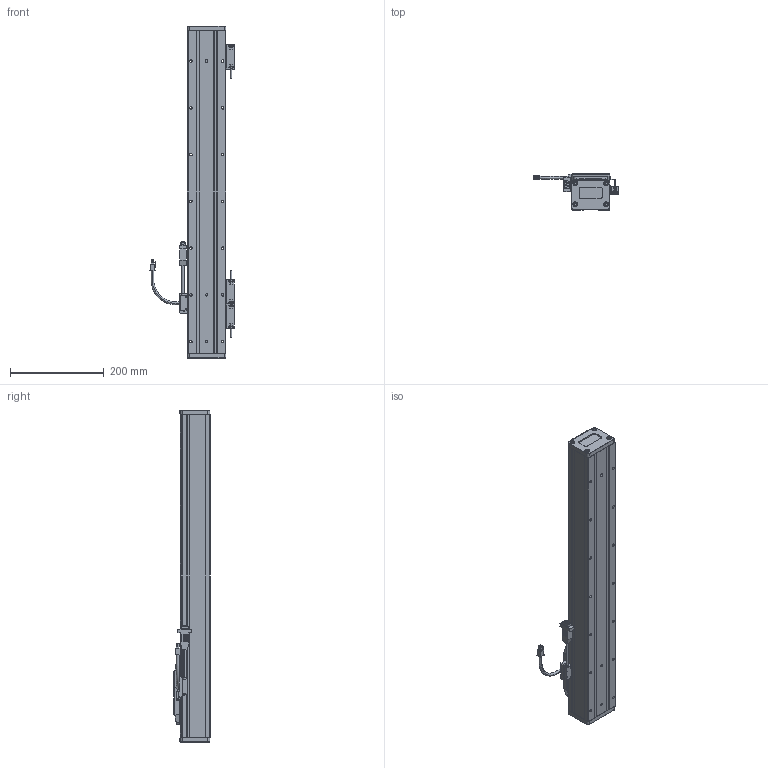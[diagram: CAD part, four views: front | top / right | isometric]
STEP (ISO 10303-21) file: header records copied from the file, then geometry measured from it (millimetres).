
FILE_DESCRIPTION(('Open CASCADE Model'),'2;1');
FILE_NAME('Open CASCADE Shape Model','2025-11-07T02:22:50',('Author'),( 'Open CASCADE'),'Open CASCADE STEP processor 7.6','Open CASCADE 7.6' ,'Unknown');
FILE_SCHEMA(('AUTOMOTIVE_DESIGN { 1 0 10303 214 1 1 1 1 }'));
Length unit declared in the file: millimetre
Products named in the file (24): Open CASCADE STEP translator 7.6 111; Open CASCADE STEP translator 7.6 111.1; Open CASCADE STEP translator 7.6 111.2; Open CASCADE STEP translator 7.6 111.3; Open CASCADE STEP translator 7.6 111.4; Open CASCADE STEP translator 7.6 111.5; Open CASCADE STEP translator 7.6 111.6; Open CASCADE STEP translator 7.6 111.7; Open CASCADE STEP translator 7.6 111.7.1; Open CASCADE STEP translator 7.6 111.7.1.1; Open CASCADE STEP translator 7.6 111.7.1.2; Open CASCADE STEP translator 7.6 111.8; Open CASCADE STEP translator 7.6 111.9; Open CASCADE STEP translator 7.6 111.10; Open CASCADE STEP translator 7.6 111.10.1; Open CASCADE STEP translator 7.6 111.10.1.1; Open CASCADE STEP translator 7.6 111.10.1.2; Open CASCADE STEP translator 7.6 111.10.1.3; Open CASCADE STEP translator 7.6 111.11; Open CASCADE STEP translator 7.6 111.12; Open CASCADE STEP translator 7.6 111.13; Open CASCADE STEP translator 7.6 111.14; Open CASCADE STEP translator 7.6 111.15; Open CASCADE STEP translator 7.6 111.16
Assembly tree (23 placements, depth 4):
  Open CASCADE STEP translator 7.6 111
    Open CASCADE STEP translator 7.6 111.1
    Open CASCADE STEP translator 7.6 111.2
    Open CASCADE STEP translator 7.6 111.3
    Open CASCADE STEP translator 7.6 111.4
    Open CASCADE STEP translator 7.6 111.5
    Open CASCADE STEP translator 7.6 111.6
    Open CASCADE STEP translator 7.6 111.7
      Open CASCADE STEP translator 7.6 111.7.1
        Open CASCADE STEP translator 7.6 111.7.1.1
        Open CASCADE STEP translator 7.6 111.7.1.2
    Open CASCADE STEP translator 7.6 111.8
    Open CASCADE STEP translator 7.6 111.9
    Open CASCADE STEP translator 7.6 111.10
      Open CASCADE STEP translator 7.6 111.10.1
        Open CASCADE STEP translator 7.6 111.10.1.1
        Open CASCADE STEP translator 7.6 111.10.1.2
        Open CASCADE STEP translator 7.6 111.10.1.3
    Open CASCADE STEP translator 7.6 111.11
    Open CASCADE STEP translator 7.6 111.12
    Open CASCADE STEP translator 7.6 111.13
    Open CASCADE STEP translator 7.6 111.14
    Open CASCADE STEP translator 7.6 111.15
    Open CASCADE STEP translator 7.6 111.16
Bounding box: 181.25 x 78 x 710 mm (x, y, z)
Volume: 2220358.2 mm3; surface area: 496622.8 mm2
Topology: 19 solids, 19 shells, 1910 faces, 4821 edges, 3061 vertices
Faces by surface type: plane 1076, cylinder 632, cone 112, torus 54, bspline 30, sphere 6
Entity records: 131223 total; most frequent: CARTESIAN_POINT 34641, DIRECTION 18273, LINE 11394, VECTOR 11394, ORIENTED_EDGE 9544, PCURVE 9544, DEFINITIONAL_REPRESENTATION 9544, EDGE_CURVE 4772
